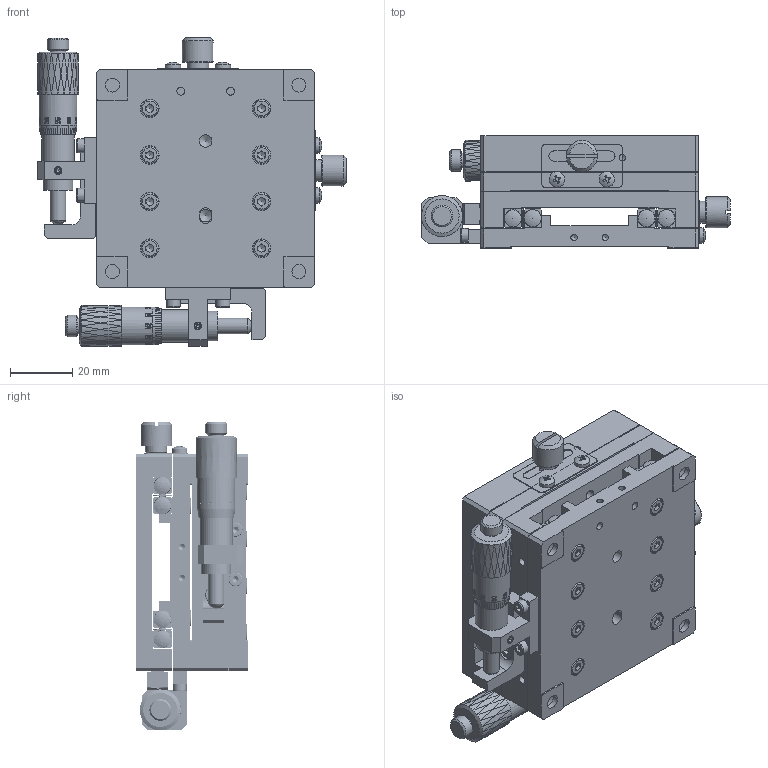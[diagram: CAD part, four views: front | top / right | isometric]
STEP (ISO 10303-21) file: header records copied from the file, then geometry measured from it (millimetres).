
FILE_DESCRIPTION (( 'STEP AP203' ), '1' );
FILE_NAME ('BPTB70.STEP', '2024-07-25T06:59:11', ( 'Windows User' ), ( 'P R C' ), 'SwSTEP 2.0', 'SolidWorks 2024', '' );
FILE_SCHEMA (( 'CONFIG_CONTROL_DESIGN' ));
Products named in the file (1): BPTB70
Bounding box: 99.4 x 36 x 99.4 mm (x, y, z)
Volume: 151298.6 mm3; surface area: 96869.9 mm2
Topology: 74 solids, 74 shells, 3710 faces, 9184 edges, 5900 vertices
Faces by surface type: plane 1686, bspline 806, cylinder 676, cone 496, torus 40, sphere 6
Full cylindrical faces by diameter (mm): 2 x44, 2.05 x24, 2.5 x32, 2.55 x32, 2.95 x18, 3 x40, 3.2 x8, 3.3 x18, 3.4 x32, 4 x2, 4.4 x32, 4.5 x12, 5 x10, 5.5 x36, 5.8 x4, 6 x32, 7 x4, 8 x8, 8.5 x2, 9.5 x4, 10 x2, 10.5 x2, 12.2 x2
Entity records: 167609 total; most frequent: CARTESIAN_POINT 91481, ORIENTED_EDGE 16292, DIRECTION 12536, EDGE_CURVE 8146, VERTEX_POINT 5636, EDGE_LOOP 5142, AXIS2_PLACEMENT_3D 4643, FACE_OUTER_BOUND 4120
